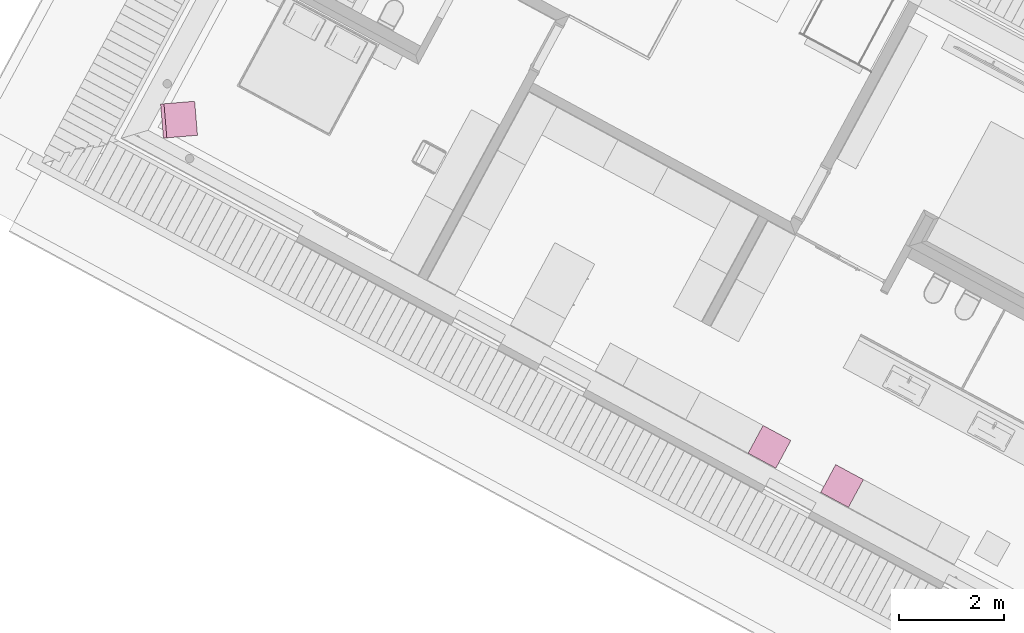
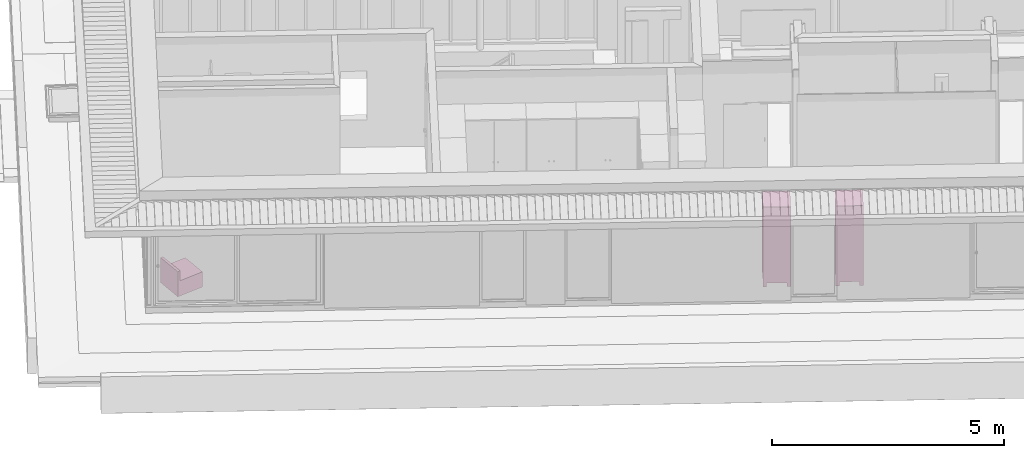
# One storey, part 21 of 41: 3 furnishings.
"""IFC2X3 building model written with IfcOpenShell, lengths in metres."""

import ifcopenshell
import ifcopenshell.guid

model = None  # the IFC model being written
_history = None  # IfcOwnerHistory: only IFC2X3 demands one
_inside = {}  # id of a spatial element -> (the spatial element, [elements in it])
_under = {}  # id of a project, library or spatial element -> (it, [spatial elements below it])
_declared = {}  # id of a project -> (the project, [libraries it declares])
_typed = {}  # id of a type object -> (the type object, [elements of that type])
_made_of = {}  # id of a material, layer set ... -> (it, [elements and type objects made of it])


def new_model(schema):
    """Start an empty IFC model of exactly this schema.

    Asked for "IFC4X3", IfcOpenShell would pick the latest addendum, in which some entities
    have other attributes; the version numbers below select the first issue.
    IFC2X3 requires an IfcOwnerHistory on every rooted entity: one is made here for all.
    """
    global model, _history
    if schema == "IFC4X3":
        model = ifcopenshell.file(schema_version=(4, 3, 0, 0))
    else:
        model = ifcopenshell.file(schema=schema)
    _inside.clear()
    _under.clear()
    _declared.clear()
    _typed.clear()
    _made_of.clear()
    _history = None
    if model.schema == "IFC2X3":
        org = make("IfcOrganization", Name="unknown")
        user = make(
            "IfcPersonAndOrganization",
            ThePerson=make("IfcPerson", FamilyName="unknown"),
            TheOrganization=org,
        )
        app = make(
            "IfcApplication",
            ApplicationDeveloper=org,
            Version="unknown",
            ApplicationFullName="unknown",
            ApplicationIdentifier="unknown",
        )
        _history = make(
            "IfcOwnerHistory",
            OwningUser=user,
            OwningApplication=app,
            ChangeAction="ADDED",
            CreationDate=0,
        )
    return model


def make(cls, **values):
    """One entity of the class cls with the attributes given. An attribute that is None is left unset."""
    return model.create_entity(
        cls, **{name: value for name, value in values.items() if value is not None}
    )


def entity(cls, *values):
    """Any entity or typed value of the class cls, its attributes in the order of the schema. None: left unset."""
    e = model.create_entity(cls)
    for i, value in enumerate(values):
        if value is not None:
            e[i] = value
    return e


def rooted(cls, **values):
    """An entity with a GlobalId (a new one), such as an element, a storey or a relation."""
    return make(cls, GlobalId=ifcopenshell.guid.new(), OwnerHistory=_history, **values)


def si_unit(unit_type, name, prefix=None):
    """IfcSIUnit, for example si_unit("LENGTHUNIT", "METRE", prefix="MILLI")."""
    return make("IfcSIUnit", UnitType=unit_type, Prefix=prefix, Name=name)


def converted_unit(unit_type, name, factor, base, dimensions=None, offset=None):
    """IfcConversionBasedUnit, such as the inch: factor (a typed value) times the base unit."""
    return make(
        "IfcConversionBasedUnit"
        if offset is None
        else "IfcConversionBasedUnitWithOffset",
        ConversionOffset=offset,
        Dimensions=None
        if dimensions is None
        else entity("IfcDimensionalExponents", *dimensions),
        UnitType=unit_type,
        Name=name,
        ConversionFactor=make(
            "IfcMeasureWithUnit", ValueComponent=factor, UnitComponent=base
        ),
    )


def derived_unit(unit_type, elements):
    """IfcDerivedUnit: a product of units, each with its exponent."""
    return make(
        "IfcDerivedUnit",
        Elements=[
            make("IfcDerivedUnitElement", Unit=unit, Exponent=power)
            for unit, power in elements
        ],
        UnitType=unit_type,
    )


def money_unit(currency):
    """IfcMonetaryUnit."""
    return make("IfcMonetaryUnit", Currency=currency)


def assignment(units):
    """IfcUnitAssignment: the units of a project."""
    return None if units is None else make("IfcUnitAssignment", Units=units)


def point(xyz):
    """IfcCartesianPoint."""
    return None if xyz is None else make("IfcCartesianPoint", Coordinates=xyz)


def direction(xyz):
    """IfcDirection."""
    return None if xyz is None else make("IfcDirection", DirectionRatios=xyz)


def frame(location, z_axis=None, x_axis=None):
    """IfcAxis2Placement3D, a coordinate frame: its origin and axes. An axis left out is left unset."""
    return make(
        "IfcAxis2Placement3D",
        Location=point(location),
        Axis=direction(z_axis),
        RefDirection=direction(x_axis),
    )


def origin_with_axes():
    """The frame at (0, 0, 0) with the z axis (0, 0, 1) and the x axis (1, 0, 0) written out."""
    return frame((0.0, 0.0, 0.0), z_axis=(0.0, 0.0, 1.0), x_axis=(1.0, 0.0, 0.0))


def place(relative_to, where):
    """IfcLocalPlacement: puts the frame where relative to a parent placement (None: the world)."""
    return make(
        "IfcLocalPlacement", PlacementRelTo=relative_to, RelativePlacement=where
    )


def context(
    kind, dimensions, precision=None, world=None, true_north=None, identifier=None
):
    """IfcGeometricRepresentationContext, for example the 3D "Model" context."""
    return make(
        "IfcGeometricRepresentationContext",
        ContextIdentifier=identifier,
        ContextType=kind,
        CoordinateSpaceDimension=dimensions,
        Precision=precision,
        WorldCoordinateSystem=world,
        TrueNorth=true_north,
    )


def subcontext(parent, identifier, kind, view, scale=None):
    """IfcGeometricRepresentationSubContext, for example "Body" below "Model"."""
    return make(
        "IfcGeometricRepresentationSubContext",
        ContextIdentifier=identifier,
        ContextType=kind,
        ParentContext=parent,
        TargetScale=scale,
        TargetView=view,
    )


def project(units=None, contexts=None):
    """IfcProject with its units and contexts."""
    return rooted(
        "IfcProject",
        Name="project",
        RepresentationContexts=contexts,
        UnitsInContext=assignment(units),
    )


def spatial(cls, under=None, at=None, **own):
    """A site, building, storey or space (cls), placed at a placement, below another one or the project."""
    s = rooted(cls, ObjectPlacement=at, **own)
    if under is not None:
        _under.setdefault(under.id(), (under, []))[1].append(s)
    return s


def faces_of(points, faces, orient=None, outer=None):
    """IfcFace entities. A face is a list of loops; a loop is a list of indices into points, from 0.

    orient and outer hold one flag for each loop. By default every Orientation is true, the
    first loop of a face is its IfcFaceOuterBound and the others are IfcFaceBound.
    """
    made = []
    for i, loops in enumerate(faces):
        bounds = []
        for j, loop in enumerate(loops):
            is_outer = j == 0 if outer is None else outer[i][j]
            bounds.append(
                make(
                    "IfcFaceOuterBound" if is_outer else "IfcFaceBound",
                    Bound=make("IfcPolyLoop", Polygon=[points[k] for k in loop]),
                    Orientation=True if orient is None else orient[i][j],
                )
            )
        made.append(make("IfcFace", Bounds=bounds))
    return made


def faceted_brep(points, faces, orient=None, outer=None, voids=None):
    """IfcFacetedBrep: a solid bounded by flat faces; with voids (closed shells), ...WithVoids."""
    shared = [point(p) for p in points]
    hull = make("IfcClosedShell", CfsFaces=faces_of(shared, faces, orient, outer))
    if voids is None:
        return make("IfcFacetedBrep", Outer=hull)
    return make(
        "IfcFacetedBrepWithVoids",
        Outer=hull,
        Voids=[
            make(cls, CfsFaces=faces_of(shared, fs, o, b)) for cls, fs, o, b in voids
        ],
    )


def shape(context_of_items, identifier, shape_type, items):
    """IfcShapeRepresentation: the items that make up one representation, for example the "Body"."""
    return make(
        "IfcShapeRepresentation",
        ContextOfItems=context_of_items,
        RepresentationIdentifier=identifier,
        RepresentationType=shape_type,
        Items=items,
    )


def source(mapping_origin, context_of_items, identifier, shape_type, items):
    """IfcRepresentationMap: a shape defined once, which mapped items show again and again."""
    return make(
        "IfcRepresentationMap",
        MappingOrigin=mapping_origin,
        MappedRepresentation=shape(context_of_items, identifier, shape_type, items),
    )


def transform(
    local_origin,
    x_axis=None,
    y_axis=None,
    z_axis=None,
    scale=None,
    scale2=None,
    scale3=None,
    uniform=True,
):
    """IfcCartesianTransformationOperator3D, or its non-uniform kind. x_axis, y_axis, z_axis: its Axis1, 2, 3."""
    if uniform:
        return make(
            "IfcCartesianTransformationOperator3D",
            Axis1=direction(x_axis),
            Axis2=direction(y_axis),
            LocalOrigin=point(local_origin),
            Scale=scale,
            Axis3=direction(z_axis),
        )
    return make(
        "IfcCartesianTransformationOperator3DnonUniform",
        Axis1=direction(x_axis),
        Axis2=direction(y_axis),
        LocalOrigin=point(local_origin),
        Scale=scale,
        Axis3=direction(z_axis),
        Scale2=scale2,
        Scale3=scale3,
    )


def mapped(mapping_source, mapping_target):
    """IfcMappedItem: shows the shape of a source again, moved by a transform."""
    return make(
        "IfcMappedItem", MappingSource=mapping_source, MappingTarget=mapping_target
    )


def made_of(thing, what):
    """Note that an element or type object is made of a material, layer set ...; save() writes the relation."""
    if what is not None:
        _made_of.setdefault(what.id(), (what, []))[1].append(thing)
    return thing


def type_object(cls, material=None, **own):
    """A type object (cls), such as IfcWallType, which elements share."""
    return made_of(rooted(cls, **own), material)


def element(
    cls,
    number,
    at=None,
    inside=None,
    cuts=None,
    type_object=None,
    material=None,
    context=None,
    identifier="Body",
    shape_type=None,
    held_by="IfcProductDefinitionShape",
    body=None,
    shapes=None,
    **own,
):
    """One element of the class cls, such as IfcWall. Its Tag is "e" and its number.

    at: its placement. inside: the storey or other place that contains it. cuts: it is an
    opening in that element (IfcRelVoidsElement). A single representation is given by context,
    identifier, shape_type and body (its items); several are given by shapes. held_by: the class
    of the entity that holds the representations. save() writes the other relations.
    """
    e = rooted(cls, Tag="e%d" % number, ObjectPlacement=at, **own)
    if body is not None:
        shapes = [shape(context, identifier, shape_type, body)]
    if shapes is not None:
        e.Representation = make(held_by, Representations=shapes)
    if inside is not None:
        _inside.setdefault(inside.id(), (inside, []))[1].append(e)
    if cuts is not None:
        rooted(
            "IfcRelVoidsElement", RelatingBuildingElement=cuts, RelatedOpeningElement=e
        )
    if type_object is not None:
        _typed.setdefault(type_object.id(), (type_object, []))[1].append(e)
    return made_of(e, material)


def aggregate(whole, parts):
    """IfcRelAggregates: a whole, such as a stair, and the parts it consists of."""
    return rooted("IfcRelAggregates", RelatingObject=whole, RelatedObjects=parts)


def save(model, path):
    """Write the relations noted so far, then the file.

    IfcRelAggregates (storeys below a building ...), IfcRelContainedInSpatialStructure (elements
    in a storey), IfcRelDefinesByType, IfcRelAssociatesMaterial and IfcRelDeclares: one each for
    every whole, place, type object, material and project.
    """
    for whole, parts in _under.values():
        aggregate(whole, parts)
    for where, things in _inside.values():
        rooted(
            "IfcRelContainedInSpatialStructure",
            RelatedElements=things,
            RelatingStructure=where,
        )
    for kind, things in _typed.values():
        rooted("IfcRelDefinesByType", RelatedObjects=things, RelatingType=kind)
    for what, things in _made_of.values():
        rooted("IfcRelAssociatesMaterial", RelatedObjects=things, RelatingMaterial=what)
    for by, libraries in _declared.values():
        rooted("IfcRelDeclares", RelatingContext=by, RelatedDefinitions=libraries)
    model.write(path)


model = new_model("IFC2X3")

# Units and contexts
model_context = context("Model", 3, precision=1e-05, world=origin_with_axes(), true_north=direction((0.0, 1.0)))
body_context = subcontext(model_context, "Body", "Model", "MODEL_VIEW")
ifc_project = project(units=[si_unit("LENGTHUNIT", "METRE"), si_unit("AREAUNIT", "SQUARE_METRE"), si_unit("VOLUMEUNIT", "CUBIC_METRE"), converted_unit("PLANEANGLEUNIT", "DEGREE", entity("IfcPlaneAngleMeasure", 0.0174532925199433), si_unit("PLANEANGLEUNIT", "RADIAN"), dimensions=[0, 0, 0, 0, 0, 0, 0]), money_unit("EUR"), converted_unit("TIMEUNIT", "Year", entity("IfcTimeMeasure", 31556926.0), si_unit("TIMEUNIT", "SECOND"), dimensions=[0, 0, 1, 0, 0, 0, 0]), si_unit("MASSUNIT", "GRAM", prefix="KILO"), si_unit("THERMODYNAMICTEMPERATUREUNIT", "DEGREE_CELSIUS"), si_unit("LUMINOUSINTENSITYUNIT", "LUMEN"), si_unit("ENERGYUNIT", "JOULE", prefix="MEGA"), derived_unit("THERMALCONDUCTANCEUNIT", [(si_unit("POWERUNIT", "WATT"), 1), (si_unit("LENGTHUNIT", "METRE"), -1), (si_unit("THERMODYNAMICTEMPERATUREUNIT", "KELVIN"), -1)]), derived_unit("SPECIFICHEATCAPACITYUNIT", [(si_unit("ENERGYUNIT", "JOULE"), 1), (si_unit("MASSUNIT", "GRAM", prefix="KILO"), -1), (si_unit("THERMODYNAMICTEMPERATUREUNIT", "KELVIN"), -1)]), derived_unit("MASSDENSITYUNIT", [(si_unit("MASSUNIT", "GRAM", prefix="KILO"), 1), (si_unit("VOLUMEUNIT", "CUBIC_METRE"), -1)])], contexts=[model_context])

# Site, building, storey
site_placement = place(None, frame((-3.949935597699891, 1.740105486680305, 0.0), z_axis=(0.0, 0.0, 1.0), x_axis=(0.8799804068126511, -0.475009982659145, 0.0)))
site = spatial("IfcSite", under=ifc_project, at=site_placement, Name="Gelände", CompositionType="ELEMENT")
building_placement = place(site_placement, origin_with_axes())
building = spatial("IfcBuilding", under=site, at=building_placement, Name="Gebäude", CompositionType="ELEMENT")
storey_placement = place(building_placement, frame((0.0, 0.0, 4.55), z_axis=(0.0, 0.0, 1.0), x_axis=(1.0, 0.0, 0.0)))
storey = spatial("IfcBuildingStorey", under=building, at=storey_placement, Name="Staffelgeschoss", CompositionType="ELEMENT", Elevation=4.55)

# Furnishings
furniture_type_1 = type_object("IfcFurnitureType", Name="Kleiderschrank 22", AssemblyPlace="NOTDEFINED")
shared_shape_1 = source(origin_with_axes(), body_context, "Body", "Brep", [
    faceted_brep([(-0.02000000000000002, 0.6000000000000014, 0.12), (-0.02000000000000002, 0.6000000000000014, 2.05), (-0.02000000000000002, 0.5800000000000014, 2.05), (-0.02000000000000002, 0.5800000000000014, 0.12), (-0.5799999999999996, 0.6000000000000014, 0.12), (-0.5799999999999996, 0.6000000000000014, 2.05), (-0.5799999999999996, 0.5800000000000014, 2.05), (-0.5799999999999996, 0.5800000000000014, 0.12)], [[[0, 1, 2, 3]], [[4, 5, 1, 0]], [[1, 5, 6, 2]], [[3, 2, 6, 7]], [[0, 3, 7, 4]], [[7, 6, 5, 4]]]),
    faceted_brep([(-0.5999999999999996, 0.05000000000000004, 0.1), (-0.5999999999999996, 0.6000000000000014, 0.1), (-0.5799999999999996, 0.6000000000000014, 0.1), (-0.5799999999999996, 0.05000000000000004, 0.1), (-0.5999999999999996, 0.05000000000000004, 2.07), (-0.5999999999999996, 0.6000000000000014, 2.07), (-0.5799999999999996, 0.6000000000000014, 2.07), (-0.5799999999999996, 0.05000000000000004, 2.07)], [[[0, 1, 2, 3]], [[0, 4, 5, 1]], [[1, 5, 6, 2]], [[2, 6, 7, 3]], [[3, 7, 4, 0]], [[7, 6, 5, 4]]]),
    faceted_brep([(-0.02, 0.05000000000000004, 0.1), (-0.02, 0.6000000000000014, 0.1), (0.0, 0.6000000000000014, 0.1), (0.0, 0.05000000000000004, 0.1), (-0.02, 0.05000000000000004, 2.07), (-0.02, 0.6000000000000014, 2.07), (0.0, 0.6000000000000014, 2.07), (0.0, 0.05000000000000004, 2.07)], [[[0, 1, 2, 3]], [[0, 4, 5, 1]], [[1, 5, 6, 2]], [[2, 6, 7, 3]], [[3, 7, 4, 0]], [[7, 6, 5, 4]]]),
    faceted_brep([(-0.5799999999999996, 0.05000000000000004, 0.1), (-0.5799999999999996, 0.6000000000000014, 0.1), (-0.02000000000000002, 0.6000000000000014, 0.1), (-0.02000000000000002, 0.05000000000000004, 0.1), (-0.5799999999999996, 0.05000000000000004, 0.12), (-0.5799999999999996, 0.6000000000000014, 0.12), (-0.02000000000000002, 0.6000000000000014, 0.12), (-0.02000000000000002, 0.05000000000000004, 0.12)], [[[0, 1, 2, 3]], [[0, 4, 5, 1]], [[1, 5, 6, 2]], [[2, 6, 7, 3]], [[3, 7, 4, 0]], [[7, 6, 5, 4]]]),
    faceted_brep([(-0.5799999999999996, 0.05000000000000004, 2.05), (-0.5799999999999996, 0.6000000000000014, 2.05), (-0.02000000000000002, 0.6000000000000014, 2.05), (-0.02000000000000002, 0.05000000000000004, 2.05), (-0.5799999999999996, 0.05000000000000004, 2.07), (-0.5799999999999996, 0.6000000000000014, 2.07), (-0.02000000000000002, 0.6000000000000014, 2.07), (-0.02000000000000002, 0.05000000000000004, 2.07)], [[[0, 1, 2, 3]], [[0, 4, 5, 1]], [[1, 5, 6, 2]], [[2, 6, 7, 3]], [[3, 7, 4, 0]], [[7, 6, 5, 4]]]),
    faceted_brep([(-0.5999999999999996, 0.6000000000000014, 2.07), (-0.5999999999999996, 0.0, 2.07), (-0.5999999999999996, 0.0, 2.1), (-0.5999999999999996, 0.6000000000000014, 2.1), (0.0, 0.6000000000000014, 2.07), (0.0, 0.0, 2.07), (0.0, 0.0, 2.1), (0.0, 0.6000000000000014, 2.1)], [[[0, 1, 2, 3]], [[0, 4, 5, 1]], [[1, 5, 6, 2]], [[3, 2, 6, 7]], [[4, 0, 3, 7]], [[5, 4, 7, 6]]]),
    faceted_brep([(-0.07999999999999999, 0.5200000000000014, 0.0), (-0.07999999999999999, 0.5200000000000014, 0.1), (-0.07999999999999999, 0.6000000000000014, 0.1), (-0.07999999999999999, 0.6000000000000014, 0.0), (0.0, 0.5200000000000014, 0.0), (0.0, 0.5200000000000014, 0.1), (0.0, 0.6000000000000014, 0.1), (0.0, 0.6000000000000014, 0.0)], [[[0, 1, 2, 3]], [[4, 5, 1, 0]], [[1, 5, 6, 2]], [[3, 2, 6, 7]], [[0, 3, 7, 4]], [[7, 6, 5, 4]]]),
    faceted_brep([(-0.5999999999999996, 0.5200000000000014, 0.0), (-0.5999999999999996, 0.5200000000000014, 0.1), (-0.5999999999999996, 0.6000000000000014, 0.1), (-0.5999999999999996, 0.6000000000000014, 0.0), (-0.5199999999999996, 0.5200000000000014, 0.0), (-0.5199999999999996, 0.5200000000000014, 0.1), (-0.5199999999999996, 0.6000000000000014, 0.1), (-0.5199999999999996, 0.6000000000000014, 0.0)], [[[0, 1, 2, 3]], [[4, 5, 1, 0]], [[1, 5, 6, 2]], [[3, 2, 6, 7]], [[0, 3, 7, 4]], [[7, 6, 5, 4]]]),
    faceted_brep([(-0.07999999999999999, 0.05000000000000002, 0.0), (-0.07999999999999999, 0.05000000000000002, 0.1), (-0.07999999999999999, 0.13, 0.1), (-0.07999999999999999, 0.13, 0.0), (0.0, 0.05000000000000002, 0.0), (0.0, 0.05000000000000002, 0.1), (0.0, 0.13, 0.1), (0.0, 0.13, 0.0)], [[[0, 1, 2, 3]], [[4, 5, 1, 0]], [[1, 5, 6, 2]], [[3, 2, 6, 7]], [[0, 3, 7, 4]], [[7, 6, 5, 4]]]),
    faceted_brep([(-0.5999999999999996, 0.05000000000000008, 0.0), (-0.5999999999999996, 0.05000000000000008, 0.1), (-0.5999999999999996, 0.1300000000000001, 0.1), (-0.5999999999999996, 0.1300000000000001, 0.0), (-0.5199999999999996, 0.05000000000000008, 0.0), (-0.5199999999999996, 0.05000000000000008, 0.1), (-0.5199999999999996, 0.1300000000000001, 0.1), (-0.5199999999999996, 0.1300000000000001, 0.0)], [[[0, 1, 2, 3]], [[4, 5, 1, 0]], [[1, 5, 6, 2]], [[3, 2, 6, 7]], [[0, 3, 7, 4]], [[7, 6, 5, 4]]]),
    faceted_brep([(-0.2994999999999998, 0.05, 0.1104999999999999), (-0.2994999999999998, 0.03, 0.1104999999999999), (-0.2994999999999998, 0.03000000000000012, 2.0595), (-0.2994999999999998, 0.05000000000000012, 2.0595), (-0.2694999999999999, 0.05, 0.1405), (-0.2694999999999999, 0.03000000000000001, 0.1405), (-0.2694999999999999, 0.03000000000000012, 2.0295), (-0.2694999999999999, 0.05000000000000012, 2.0295)], [[[0, 1, 2, 3]], [[4, 5, 1, 0]], [[1, 5, 6, 2]], [[3, 2, 6, 7]], [[0, 3, 7, 4]], [[7, 6, 5, 4]]]),
    faceted_brep([(-0.04050000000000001, 0.05, 0.1405), (-0.04050000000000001, 0.03000000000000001, 0.1405), (-0.04050000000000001, 0.03000000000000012, 2.0295), (-0.04050000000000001, 0.05000000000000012, 2.0295), (-0.01050000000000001, 0.05, 0.1104999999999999), (-0.01050000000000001, 0.03, 0.1104999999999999), (-0.01050000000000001, 0.03000000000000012, 2.0595), (-0.01050000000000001, 0.05000000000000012, 2.0595)], [[[0, 1, 2, 3]], [[4, 5, 1, 0]], [[1, 5, 6, 2]], [[3, 2, 6, 7]], [[0, 3, 7, 4]], [[7, 6, 5, 4]]]),
    faceted_brep([(-0.01050000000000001, 0.05, 0.1104999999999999), (-0.01050000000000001, 0.03, 0.1104999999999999), (-0.2994999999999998, 0.03, 0.1104999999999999), (-0.2994999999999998, 0.05, 0.1104999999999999), (-0.04050000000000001, 0.05, 0.1405), (-0.04050000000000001, 0.03000000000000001, 0.1405), (-0.2694999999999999, 0.03000000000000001, 0.1405), (-0.2694999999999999, 0.05, 0.1405)], [[[0, 1, 2, 3]], [[4, 5, 1, 0]], [[1, 5, 6, 2]], [[3, 2, 6, 7]], [[0, 3, 7, 4]], [[7, 6, 5, 4]]]),
    faceted_brep([(-0.04050000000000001, 0.05000000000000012, 2.0295), (-0.04050000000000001, 0.03000000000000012, 2.0295), (-0.2694999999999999, 0.03000000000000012, 2.0295), (-0.2694999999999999, 0.05000000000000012, 2.0295), (-0.01050000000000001, 0.05000000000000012, 2.0595), (-0.01050000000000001, 0.03000000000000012, 2.0595), (-0.2994999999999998, 0.03000000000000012, 2.0595), (-0.2994999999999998, 0.05000000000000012, 2.0595)], [[[0, 1, 2, 3]], [[4, 5, 1, 0]], [[1, 5, 6, 2]], [[3, 2, 6, 7]], [[0, 3, 7, 4]], [[7, 6, 5, 4]]]),
    faceted_brep([(-0.2694999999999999, 0.04500000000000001, 0.1405), (-0.2694999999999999, 0.035, 0.1405), (-0.2694999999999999, 0.03500000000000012, 2.0295), (-0.2694999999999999, 0.04500000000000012, 2.0295), (-0.04050000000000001, 0.04500000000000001, 0.1405), (-0.04050000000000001, 0.035, 0.1405), (-0.04050000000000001, 0.03500000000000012, 2.0295), (-0.04050000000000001, 0.04500000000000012, 2.0295)], [[[0, 1, 2, 3]], [[4, 5, 1, 0]], [[1, 5, 6, 2]], [[3, 2, 6, 7]], [[0, 3, 7, 4]], [[7, 6, 5, 4]]]),
    faceted_brep([(-0.2593923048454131, 0.035, 0.954), (-0.2609999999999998, 0.035, 0.96), (-0.2593923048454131, 0.035, 0.966), (-0.2549999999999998, 0.035, 0.9703923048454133), (-0.2489999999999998, 0.035, 0.972), (-0.2429999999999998, 0.035, 0.9703923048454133), (-0.2386076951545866, 0.035, 0.966), (-0.2369999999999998, 0.035, 0.96), (-0.2386076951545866, 0.035, 0.954), (-0.2429999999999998, 0.035, 0.9496076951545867), (-0.2489999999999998, 0.035, 0.948), (-0.2549999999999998, 0.035, 0.9496076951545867), (-0.2593923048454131, 0.01, 0.954), (-0.2609999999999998, 0.01, 0.96), (-0.2593923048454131, 0.01, 0.966), (-0.2549999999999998, 0.01, 0.9703923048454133), (-0.2489999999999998, 0.01, 0.972), (-0.2429999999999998, 0.01, 0.9703923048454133), (-0.2386076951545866, 0.01, 0.966), (-0.2369999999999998, 0.01, 0.96), (-0.2386076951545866, 0.01, 0.954), (-0.2429999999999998, 0.01, 0.9496076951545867), (-0.2489999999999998, 0.01, 0.948), (-0.2549999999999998, 0.01, 0.9496076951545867)], [[[0, 1, 2, 3, 4, 5, 6, 7, 8, 9, 10, 11]], [[0, 12, 13, 1]], [[1, 13, 14, 2]], [[2, 14, 15, 3]], [[3, 15, 16, 4]], [[4, 16, 17, 5]], [[5, 17, 18, 6]], [[6, 18, 19, 7]], [[7, 19, 20, 8]], [[8, 20, 21, 9]], [[9, 21, 22, 10]], [[10, 22, 23, 11]], [[11, 23, 12, 0]], [[12, 23, 22, 21, 20, 19, 18, 17, 16, 15, 14, 13]]]),
    faceted_brep([(-0.5904999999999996, 0.05, 0.1104999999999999), (-0.5904999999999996, 0.03, 0.1104999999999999), (-0.5904999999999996, 0.03000000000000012, 2.0595), (-0.5904999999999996, 0.05000000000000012, 2.0595), (-0.5604999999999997, 0.05, 0.1405), (-0.5604999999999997, 0.03000000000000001, 0.1405), (-0.5604999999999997, 0.03000000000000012, 2.0295), (-0.5604999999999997, 0.05000000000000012, 2.0295)], [[[0, 1, 2, 3]], [[4, 5, 1, 0]], [[1, 5, 6, 2]], [[3, 2, 6, 7]], [[0, 3, 7, 4]], [[7, 6, 5, 4]]]),
    faceted_brep([(-0.3314999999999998, 0.05, 0.1405), (-0.3314999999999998, 0.03000000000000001, 0.1405), (-0.3314999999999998, 0.03000000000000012, 2.0295), (-0.3314999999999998, 0.05000000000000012, 2.0295), (-0.3014999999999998, 0.05, 0.1104999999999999), (-0.3014999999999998, 0.03, 0.1104999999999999), (-0.3014999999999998, 0.03000000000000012, 2.0595), (-0.3014999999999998, 0.05000000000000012, 2.0595)], [[[0, 1, 2, 3]], [[4, 5, 1, 0]], [[1, 5, 6, 2]], [[3, 2, 6, 7]], [[0, 3, 7, 4]], [[7, 6, 5, 4]]]),
    faceted_brep([(-0.3014999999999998, 0.05, 0.1104999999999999), (-0.3014999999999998, 0.03, 0.1104999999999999), (-0.5904999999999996, 0.03, 0.1104999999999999), (-0.5904999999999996, 0.05, 0.1104999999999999), (-0.3314999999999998, 0.05, 0.1405), (-0.3314999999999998, 0.03000000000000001, 0.1405), (-0.5604999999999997, 0.03000000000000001, 0.1405), (-0.5604999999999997, 0.05, 0.1405)], [[[0, 1, 2, 3]], [[4, 5, 1, 0]], [[1, 5, 6, 2]], [[3, 2, 6, 7]], [[0, 3, 7, 4]], [[7, 6, 5, 4]]]),
    faceted_brep([(-0.3314999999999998, 0.05000000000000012, 2.0295), (-0.3314999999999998, 0.03000000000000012, 2.0295), (-0.5604999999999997, 0.03000000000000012, 2.0295), (-0.5604999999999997, 0.05000000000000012, 2.0295), (-0.3014999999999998, 0.05000000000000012, 2.0595), (-0.3014999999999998, 0.03000000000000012, 2.0595), (-0.5904999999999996, 0.03000000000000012, 2.0595), (-0.5904999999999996, 0.05000000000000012, 2.0595)], [[[0, 1, 2, 3]], [[4, 5, 1, 0]], [[1, 5, 6, 2]], [[3, 2, 6, 7]], [[0, 3, 7, 4]], [[7, 6, 5, 4]]]),
    faceted_brep([(-0.5604999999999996, 0.04500000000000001, 0.1405), (-0.5604999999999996, 0.04000000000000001, 0.1405), (-0.5604999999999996, 0.04000000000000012, 2.0295), (-0.5604999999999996, 0.04500000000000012, 2.0295), (-0.3314999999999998, 0.04500000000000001, 0.1405), (-0.3314999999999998, 0.04000000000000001, 0.1405), (-0.3314999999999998, 0.04000000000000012, 2.0295), (-0.3314999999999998, 0.04500000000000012, 2.0295)], [[[0, 1, 2, 3]], [[4, 5, 1, 0]], [[1, 5, 6, 2]], [[3, 2, 6, 7]], [[0, 3, 7, 4]], [[7, 6, 5, 4]]]),
    faceted_brep([(-0.5604999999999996, 0.04000000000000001, 0.1405), (-0.5604999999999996, 0.03500000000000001, 0.1405), (-0.5604999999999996, 0.03500000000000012, 2.0295), (-0.5604999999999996, 0.04000000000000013, 2.0295), (-0.3314999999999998, 0.04000000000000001, 0.1405), (-0.3314999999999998, 0.03500000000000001, 0.1405), (-0.3314999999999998, 0.03500000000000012, 2.0295), (-0.3314999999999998, 0.04000000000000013, 2.0295)], [[[0, 1, 2, 3]], [[4, 5, 1, 0]], [[1, 5, 6, 2]], [[3, 2, 6, 7]], [[0, 3, 7, 4]], [[7, 6, 5, 4]]]),
    faceted_brep([(-0.3406076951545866, 0.035, 0.954), (-0.3449999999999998, 0.035, 0.9496076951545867), (-0.3509999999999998, 0.035, 0.948), (-0.3569999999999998, 0.035, 0.9496076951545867), (-0.3613923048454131, 0.035, 0.954), (-0.3629999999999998, 0.035, 0.96), (-0.3613923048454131, 0.035, 0.966), (-0.3569999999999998, 0.035, 0.9703923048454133), (-0.3509999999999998, 0.035, 0.972), (-0.3449999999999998, 0.035, 0.9703923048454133), (-0.3406076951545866, 0.035, 0.966), (-0.3389999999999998, 0.035, 0.96), (-0.3406076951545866, 0.01, 0.954), (-0.3449999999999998, 0.01, 0.9496076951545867), (-0.3509999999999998, 0.01, 0.948), (-0.3569999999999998, 0.01, 0.9496076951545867), (-0.3613923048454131, 0.01, 0.954), (-0.3629999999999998, 0.01, 0.96), (-0.3613923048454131, 0.01, 0.966), (-0.3569999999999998, 0.01, 0.9703923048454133), (-0.3509999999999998, 0.01, 0.972), (-0.3449999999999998, 0.01, 0.9703923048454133), (-0.3406076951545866, 0.01, 0.966), (-0.3389999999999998, 0.01, 0.96)], [[[0, 1, 2, 3, 4, 5, 6, 7, 8, 9, 10, 11]], [[1, 0, 12, 13]], [[2, 1, 13, 14]], [[3, 2, 14, 15]], [[4, 3, 15, 16]], [[5, 4, 16, 17]], [[6, 5, 17, 18]], [[7, 6, 18, 19]], [[8, 7, 19, 20]], [[9, 8, 20, 21]], [[10, 9, 21, 22]], [[11, 10, 22, 23]], [[0, 11, 23, 12]], [[12, 23, 22, 21, 20, 19, 18, 17, 16, 15, 14, 13]]]),
])
for number, where, z_axis, x_axis, name in (
    (1, (18.55040854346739, 2.239992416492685, 0.0), (0.0, 0.0, 1.0), (-1.0, 0.0, 0.0), "Objekt-0066"),
    (2, (20.11771607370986, 2.239992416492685, 0.0), (0.0, 0.0, 1.0), (-1.0, 0.0, 0.0), "Objekt-0066"),
):
    element("IfcFurnishingElement", number, at=place(storey_placement, frame(where, z_axis=z_axis, x_axis=x_axis)), inside=storey, type_object=furniture_type_1, Name=name, ObjectType="FURNITURE", context=body_context, shape_type="MappedRepresentation", body=[
        mapped(shared_shape_1, transform((0.0, 0.0, 0.0))),
    ])
furniture_type_2 = type_object("IfcFurnitureType", Name="Armstuhl 2 22", AssemblyPlace="NOTDEFINED")
shared_shape_2 = source(origin_with_axes(), body_context, "Body", "Brep", [
    faceted_brep([(0.65, 0.0, 0.0), (0.65, 0.0, 0.4), (0.0, 0.0, 0.4), (0.0, 0.0, 0.0), (0.65, 0.65, 0.0), (0.65, 0.65, 0.66), (0.65, 0.5850000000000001, 0.66), (0.65, 0.5850000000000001, 0.4), (0.0, 0.5850000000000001, 0.4), (0.0, 0.5850000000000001, 0.66), (0.0, 0.65, 0.66), (0.0, 0.65, 0.0)], [[[0, 1, 2, 3]], [[0, 4, 5, 6, 7, 1]], [[1, 7, 8, 2]], [[3, 2, 8, 9, 10, 11]], [[4, 0, 3, 11]], [[5, 4, 11, 10]], [[6, 5, 10, 9]], [[7, 6, 9, 8]]]),
])
furnishing_placement = place(storey_placement, frame((6.468470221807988, 1.986239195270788, 0.0), z_axis=(0.0, 0.0, 1.0), x_axis=(-0.5468398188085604, 0.8372372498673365, 0.0)))
element("IfcFurnishingElement", 3, at=furnishing_placement, inside=storey, type_object=furniture_type_2, Name="Objekt-0070", ObjectType="FURNITURE", context=body_context, shape_type="MappedRepresentation", body=[
    mapped(shared_shape_2, transform((0.0, 0.0, 0.0))),
])

save(model, "model.ifc")
